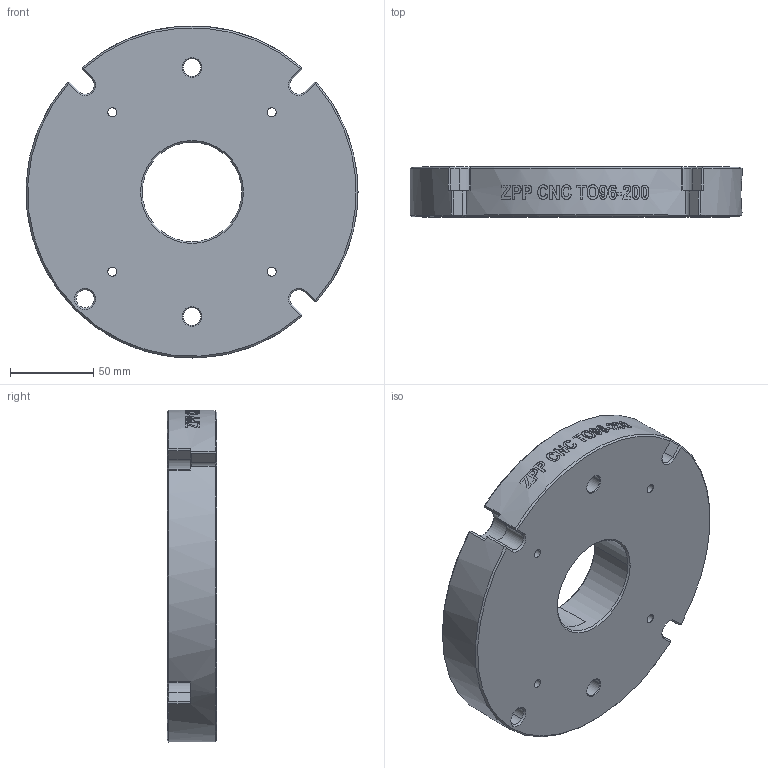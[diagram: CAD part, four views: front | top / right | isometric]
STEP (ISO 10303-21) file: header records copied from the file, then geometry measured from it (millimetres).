
FILE_DESCRIPTION((''),'2;1');
FILE_NAME('TO96-200','2025-08-08T18:41:26',('XF'),(''),'CREO PARAMETRIC BY PTC INC, 2023073','CREO PARAMETRIC BY PTC INC, 2023073','');
FILE_SCHEMA(('CONFIG_CONTROL_DESIGN'));
Length unit declared in the file: millimetre
Products named in the file (1): TO96-200
Bounding box: 200 x 30 x 200 mm (x, y, z)
Volume: 789694 mm3; surface area: 91905.1 mm2
Topology: 1 solids, 1 shells, 444 faces, 1189 edges, 777 vertices
Faces by surface type: extrusion 167, plane 125, cylinder 89, cone 53, torus 8, bspline 2
Entity records: 16420 total; most frequent: CARTESIAN_POINT 5792, ORIENTED_EDGE 2362, DIRECTION 1795, EDGE_CURVE 1181, VERTEX_POINT 777, VECTOR 675, AXIS2_PLACEMENT_3D 560, B_SPLINE_CURVE_WITH_KNOTS 555
